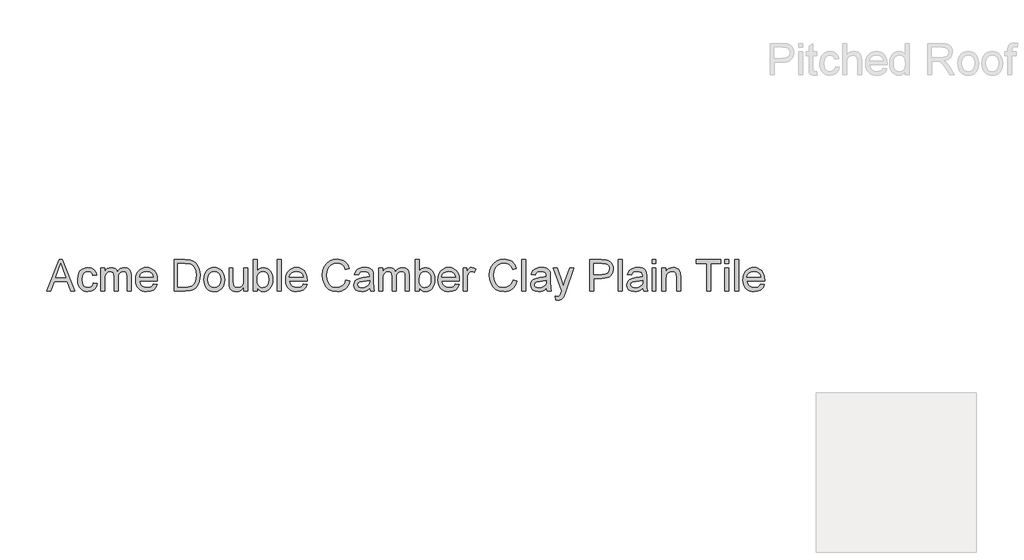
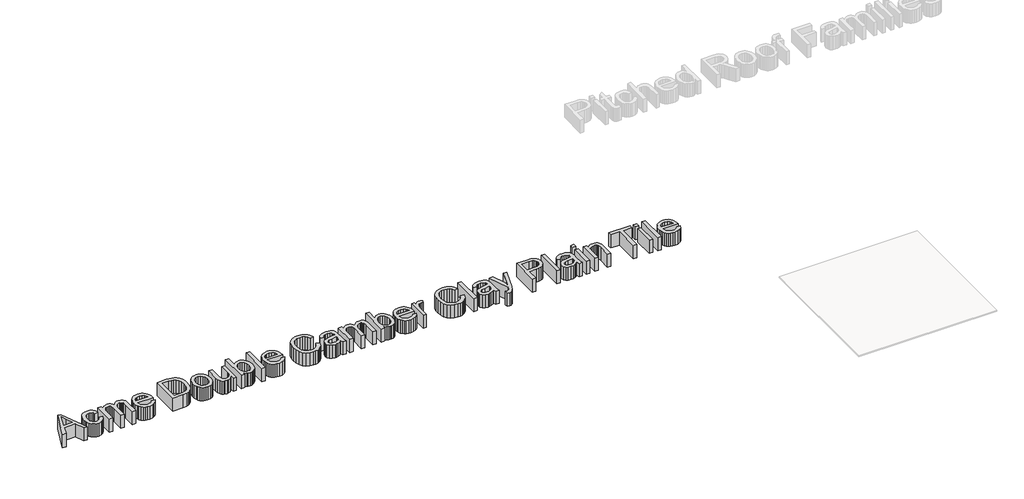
# One storey, part 3 of 4: 1 proxy.
"""IFC4 building model written with IfcOpenShell, lengths in millimetres."""

from ifc_helpers import new_model, si_unit, frame, origin, place, context, project, spatial, polyline, outline, extrude, element, save

model = new_model("IFC4")

# Units and contexts
model_context = context("Model", 3, world=origin())
ifc_project = project(units=[si_unit("LENGTHUNIT", "METRE", prefix="MILLI")], contexts=[model_context])

# Site, building, storey
site = spatial("IfcSite", under=ifc_project)
building = spatial("IfcBuilding", under=site)
storey = spatial("IfcBuildingStorey", under=building, Name="Marley Clay Plain Tile", Elevation=3000.0)

# Proxy
placement = place(None, origin())
element("IfcBuildingElementProxy", 1, Name="600mm Arial", ObjectType="600mm Arial", at=placement, inside=storey, context=model_context, shape_type="SweptSolid", body=[
    extrude(outline(polyline([(-17694.1326093, 5571.4862765), (-17576.2239555, 5866.8708919), (-17544.7816478, 5866.8708919), (-17426.8729939, 5571.4862765), (-17465.887417, 5571.4862765), (-17499.7095324, 5663.7939688), (-17621.3681863, 5663.7939688), (-17655.1181863, 5571.4862765), (-17694.1326093, 5571.4862765)]), holes=[polyline([(-17607.8104939, 5700.7170457), (-17513.1951093, 5700.7170457), (-17539.8056863, 5773.337238), (-17560.5028016, 5829.947815), (-17578.8922247, 5779.6833919), (-17607.8104939, 5700.7170457)])]), frame((0.0, 0.0, 3000.0), z_axis=(0.0, 0.0, 1.0), x_axis=(1.0, 0.0, 0.0)), (0.0, 0.0, 1.0), 150.0),
    extrude(outline(polyline([(-17253.5797247, 5649.947815), (-17216.6566478, 5645.3324304), (-17226.9511189, 5612.4928871), (-17246.2960709, 5587.6761804), (-17272.8705901, 5572.072214), (-17304.8537632, 5566.8708919), (-17325.5621466, 5568.6850445), (-17344.1296045, 5574.1275025), (-17360.556137, 5583.1982657), (-17374.8417439, 5595.8973342), (-17386.4049952, 5611.9858258), (-17394.6644603, 5631.2248582), (-17399.6201394, 5653.6144316), (-17401.2720324, 5679.1545457), (-17398.450518, 5712.0121179), (-17389.9859747, 5740.4886804), (-17375.7431863, 5763.4844736), (-17355.5869363, 5779.899738), (-17331.4733545, 5789.743488), (-17305.3585709, 5793.024738), (-17274.1596526, 5788.5175265), (-17249.2167439, 5774.9958919), (-17231.3231141, 5753.180988), (-17221.2720324, 5723.7939688), (-17258.1951093, 5719.1785842), (-17264.8928257, 5735.2873582), (-17275.3225132, 5746.8348342), (-17288.9072488, 5753.7849544), (-17305.0701093, 5756.1016611), (-17328.9312872, 5751.540363), (-17347.8705901, 5737.8564688), (-17360.2293641, 5714.3107957), (-17364.3489555, 5680.1641611), (-17360.3195084, 5645.5577909), (-17348.231167, 5621.930988), (-17329.6344122, 5608.3282236), (-17306.0797247, 5603.7939688), (-17286.9601334, 5606.6244977), (-17271.2840516, 5615.1160842), (-17259.8808064, 5629.4850746), (-17253.5797247, 5649.947815)])), frame((0.0, 0.0, 3000.0), z_axis=(0.0, 0.0, 1.0), x_axis=(1.0, 0.0, 0.0)), (0.0, 0.0, 1.0), 150.0),
    extrude(outline(polyline([(-17184.3489555, 5571.4862765), (-17184.3489555, 5788.4093534), (-17147.4258786, 5788.4093534), (-17147.4258786, 5752.712238), (-17136.3201093, 5769.1094736), (-17122.0412632, 5781.9550265), (-17105.0761189, 5790.2573102), (-17085.9114555, 5793.024738), (-17065.3765997, 5790.2032236), (-17048.9162632, 5781.7386804), (-17036.6205901, 5768.1900025), (-17028.5797247, 5750.1160842), (-17015.1211911, 5768.8886203), (-16999.7696286, 5782.2975746), (-16982.5250372, 5790.3429472), (-16963.387417, 5793.024738), (-16935.6320084, 5788.5625986), (-16915.106167, 5775.1761804), (-16902.4228738, 5752.5049063), (-16898.1951093, 5720.1881996), (-16898.1951093, 5571.4862765), (-16935.1181863, 5571.4862765), (-16935.1181863, 5704.322815), (-16938.543667, 5735.1521419), (-16943.3573689, 5743.6527429), (-16950.9475132, 5750.3324304), (-16960.7101334, 5754.6593534), (-16972.0412632, 5756.1016611), (-16992.044268, 5752.4057477), (-17008.3513593, 5741.3180073), (-17019.1957103, 5722.0812284), (-17022.8104939, 5693.9381996), (-17022.8104939, 5571.4862765), (-17059.7335709, 5571.4862765), (-17059.7335709, 5708.4333919), (-17061.8699891, 5729.3107957), (-17068.2792439, 5744.2026227), (-17079.5562872, 5753.1269015), (-17096.2960709, 5756.1016611), (-17110.5208305, 5754.118488), (-17123.6278016, 5748.1689688), (-17134.4451093, 5738.3973342), (-17141.8008786, 5724.947815), (-17146.0196286, 5706.2879592), (-17147.4258786, 5680.885315), (-17147.4258786, 5571.4862765), (-17184.3489555, 5571.4862765)])), frame((0.0, 0.0, 3000.0), z_axis=(0.0, 0.0, 1.0), x_axis=(1.0, 0.0, 0.0)), (0.0, 0.0, 1.0), 150.0),
    extrude(outline(polyline([(-16690.9354939, 5636.1016611), (-16654.7335709, 5631.4862765), (-16667.7774411, 5604.2086323), (-16688.5917439, 5583.8180073), (-16716.7077295, 5571.1076707), (-16751.6566478, 5566.8708919), (-16774.566804, 5568.6985662), (-16794.9799651, 5574.181589), (-16812.896131, 5583.3199604), (-16828.3153016, 5596.1136804), (-16840.7146406, 5612.2066792), (-16849.5713113, 5631.2428871), (-16854.8853137, 5653.2223042), (-16856.6566478, 5678.1449304), (-16854.8672848, 5703.9126587), (-16849.4991959, 5726.6244977), (-16840.552381, 5746.2804472), (-16828.0268401, 5762.8805073), (-16812.6482343, 5776.0686082), (-16795.1422247, 5785.4886804), (-16775.5088113, 5791.1407236), (-16753.7479939, 5793.024738), (-16732.688048, 5791.1452308), (-16713.6428257, 5785.5067092), (-16696.6123269, 5776.1091731), (-16681.5965516, 5762.9526227), (-16669.3391899, 5746.3886203), (-16660.5839314, 5726.7687284), (-16655.3307764, 5704.0929472), (-16653.5797247, 5678.3612765), (-16653.7960709, 5668.4093534), (-16819.7335709, 5668.4093534), (-16813.3423449, 5640.7711323), (-16798.4955901, 5620.4526227), (-16777.0683064, 5607.9586323), (-16750.9354939, 5603.7939688), (-16731.2840516, 5605.7230554), (-16714.7335709, 5611.510315), (-16701.2840516, 5621.5163246), (-16690.9354939, 5636.1016611)]), holes=[polyline([(-16819.7335709, 5705.3324304), (-16690.5028016, 5705.3324304), (-16695.496792, 5724.8396419), (-16705.2864555, 5738.7939688), (-16726.8128978, 5751.774738), (-16753.8922247, 5756.1016611), (-16778.7810468, 5752.6491371), (-16799.3609747, 5742.291565), (-16813.6668641, 5726.1467332), (-16819.7335709, 5705.3324304)])]), frame((0.0, 0.0, 3000.0), z_axis=(0.0, 0.0, 1.0), x_axis=(1.0, 0.0, 0.0)), (0.0, 0.0, 1.0), 150.0),
    extrude(outline(polyline([(-16496.6566478, 5571.4862765), (-16496.6566478, 5866.8708919), (-16394.7576093, 5866.8708919), (-16342.0412632, 5862.6160842), (-16318.4955901, 5854.4129592), (-16298.6278016, 5841.4862765), (-16278.2011189, 5818.9862765), (-16263.6518401, 5791.0055073), (-16254.9439074, 5758.0848342), (-16252.0412632, 5720.7651227), (-16254.0064074, 5689.0613967), (-16259.9018401, 5661.1617573), (-16268.8802055, 5637.4087525), (-16280.0941478, 5618.1449304), (-16293.0028016, 5602.9375986), (-16307.0653016, 5591.354065), (-16323.2101334, 5582.7633198), (-16342.3657824, 5576.5343534), (-16389.8537632, 5571.4862765), (-16496.6566478, 5571.4862765)]), holes=[polyline([(-16459.7335709, 5608.4093534), (-16394.3970324, 5608.4093534), (-16367.371792, 5609.743488), (-16346.8729939, 5613.7458919), (-16331.4042439, 5620.18219), (-16319.4691478, 5628.8180073), (-16306.6416238, 5644.8005794), (-16297.0052055, 5665.4886804), (-16290.9745564, 5690.9724544), (-16288.9643401, 5721.3420457), (-16292.903643, 5761.5824304), (-16304.7215516, 5791.2939688), (-16322.1824891, 5811.7026227), (-16343.0508786, 5824.0343534), (-16364.2888593, 5828.4694496), (-16395.4066478, 5829.947815), (-16459.7335709, 5829.947815), (-16459.7335709, 5608.4093534)])]), frame((0.0, 0.0, 3000.0), z_axis=(0.0, 0.0, 1.0), x_axis=(1.0, 0.0, 0.0)), (0.0, 0.0, 1.0), 150.0),
    extrude(outline(polyline([(-16215.1181863, 5679.947815), (-16213.1214915, 5708.0412645), (-16207.1314074, 5732.2494977), (-16197.1479339, 5752.5725145), (-16183.1710709, 5769.010315), (-16169.0995564, 5779.5166251), (-16153.5677055, 5787.0211323), (-16136.575518, 5791.5238366), (-16118.1229939, 5793.024738), (-16097.7526514, 5791.1970638), (-16079.3339314, 5785.7140409), (-16062.8668341, 5776.5756695), (-16048.3513593, 5763.7819496), (-16036.5041538, 5747.7655734), (-16028.0418641, 5728.9592332), (-16022.9644903, 5707.3629292), (-16021.2720324, 5682.9766611), (-16024.2648209, 5645.6749784), (-16033.2431863, 5617.2795457), (-16047.9457103, 5596.0145217), (-16068.1109747, 5580.104065), (-16092.0622968, 5570.1791852), (-16118.1229939, 5566.8708919), (-16138.7908125, 5568.6918054), (-16157.3808064, 5574.1545457), (-16173.8929759, 5583.259113), (-16188.3273209, 5596.0055073), (-16200.0483245, 5612.1773823), (-16208.4204699, 5631.5583919), (-16213.4437572, 5654.1485361), (-16215.1181863, 5679.947815)]), holes=[polyline([(-16178.1951093, 5680.0199304), (-16173.9222728, 5646.603464), (-16161.1037632, 5622.7963727), (-16141.8128978, 5608.5445698), (-16118.1229939, 5603.7939688), (-16094.5412632, 5608.571613), (-16075.2864555, 5622.9045457), (-16062.4679459, 5647.0271419), (-16058.1951093, 5681.1737765), (-16062.4949891, 5713.6166852), (-16075.3946286, 5737.0992573), (-16094.6764795, 5751.3510602), (-16118.1229939, 5756.1016611), (-16141.8128978, 5751.369089), (-16161.1037632, 5737.1713727), (-16173.9222728, 5713.4183679), (-16178.1951093, 5680.0199304)])]), frame((0.0, 0.0, 3000.0), z_axis=(0.0, 0.0, 1.0), x_axis=(1.0, 0.0, 0.0)), (0.0, 0.0, 1.0), 150.0),
    extrude(outline(polyline([(-15841.2720324, 5571.4862765), (-15841.2720324, 5608.7699304), (-15854.6314074, 5590.439101), (-15870.1903016, 5577.3456515), (-15887.9487151, 5569.4895818), (-15907.9066478, 5566.8708919), (-15925.8904218, 5568.7098342), (-15942.6302055, 5574.2266611), (-15956.6746766, 5582.5199304), (-15966.5725132, 5592.6881996), (-15977.5701093, 5619.8756996), (-15979.7335709, 5654.2026227), (-15979.7335709, 5788.4093534), (-15942.8104939, 5788.4093534), (-15942.8104939, 5671.5824304), (-15940.574917, 5633.9381996), (-15935.1933064, 5621.3811082), (-15925.9715516, 5611.8348342), (-15913.5226334, 5605.8041852), (-15898.4595324, 5603.7939688), (-15882.5310468, 5605.8492573), (-15867.6302055, 5612.0151227), (-15855.3435468, 5621.7236563), (-15847.2576093, 5634.4069496), (-15842.7684266, 5651.7777429), (-15841.2720324, 5675.5487765), (-15841.2720324, 5788.4093534), (-15804.3489555, 5788.4093534), (-15804.3489555, 5571.4862765), (-15841.2720324, 5571.4862765)])), frame((0.0, 0.0, 3000.0), z_axis=(0.0, 0.0, 1.0), x_axis=(1.0, 0.0, 0.0)), (0.0, 0.0, 1.0), 150.0),
    extrude(outline(polyline([(-15716.6566478, 5571.4862765), (-15753.5797247, 5571.4862765), (-15753.5797247, 5866.8708919), (-15716.6566478, 5866.8708919), (-15716.6566478, 5757.3276227), (-15704.5142199, 5772.9451106), (-15690.8032824, 5784.1004592), (-15675.5238353, 5790.7936683), (-15658.6758786, 5793.024738), (-15639.6554459, 5791.0145217), (-15621.6806863, 5784.9838727), (-15605.7792439, 5775.3113967), (-15592.9787632, 5762.3756996), (-15582.9457103, 5746.3029832), (-15575.3465516, 5727.2194496), (-15570.559893, 5705.9183679), (-15568.9643401, 5683.1930073), (-15570.6162331, 5656.9700505), (-15575.5719122, 5633.9021419), (-15583.8313774, 5613.9892813), (-15595.3946286, 5597.2314688), (-15609.2745865, 5583.9487164), (-15624.4841718, 5574.4610361), (-15641.0233846, 5568.768428), (-15658.8922247, 5566.8708919), (-15676.2945685, 5569.3183078), (-15691.7227536, 5576.6605554), (-15705.17678, 5588.8976347), (-15716.6566478, 5606.0295457), (-15716.6566478, 5571.4862765)]), holes=[polyline([(-15716.6566478, 5681.462238), (-15714.1326093, 5650.6689688), (-15706.5604939, 5629.8276227), (-15697.613679, 5618.4378991), (-15687.215542, 5610.3023823), (-15675.3660829, 5605.4210722), (-15662.0653016, 5603.7939688), (-15640.7552055, 5608.5896419), (-15622.5460709, 5622.9766611), (-15610.0520805, 5646.8648823), (-15605.887417, 5680.1641611), (-15609.8808064, 5713.9502188), (-15621.8609747, 5737.5680073), (-15639.5022007, 5751.4682477), (-15660.4787632, 5756.1016611), (-15681.7888593, 5751.305988), (-15699.9979939, 5736.9189688), (-15712.4919843, 5713.46344), (-15716.6566478, 5681.462238)])]), frame((0.0, 0.0, 3000.0), z_axis=(0.0, 0.0, 1.0), x_axis=(1.0, 0.0, 0.0)), (0.0, 0.0, 1.0), 150.0),
    extrude(outline(polyline([(-15527.4258786, 5571.4862765), (-15527.4258786, 5866.8708919), (-15490.5028016, 5866.8708919), (-15490.5028016, 5571.4862765), (-15527.4258786, 5571.4862765)])), frame((0.0, 0.0, 3000.0), z_axis=(0.0, 0.0, 1.0), x_axis=(1.0, 0.0, 0.0)), (0.0, 0.0, 1.0), 150.0),
    extrude(outline(polyline([(-15283.2431863, 5636.1016611), (-15247.0412632, 5631.4862765), (-15260.0851334, 5604.2086323), (-15280.8994363, 5583.8180073), (-15309.0154218, 5571.1076707), (-15343.9643401, 5566.8708919), (-15366.8744964, 5568.6985662), (-15387.2876574, 5574.181589), (-15405.2038233, 5583.3199604), (-15420.6229939, 5596.1136804), (-15433.0223329, 5612.2066792), (-15441.8790036, 5631.2428871), (-15447.193006, 5653.2223042), (-15448.9643401, 5678.1449304), (-15447.1749771, 5703.9126587), (-15441.8068882, 5726.6244977), (-15432.8600733, 5746.2804472), (-15420.3345324, 5762.8805073), (-15404.9559266, 5776.0686082), (-15387.449917, 5785.4886804), (-15367.8165036, 5791.1407236), (-15346.0556863, 5793.024738), (-15324.9957403, 5791.1452308), (-15305.950518, 5785.5067092), (-15288.9200192, 5776.1091731), (-15273.9042439, 5762.9526227), (-15261.6468822, 5746.3886203), (-15252.8916238, 5726.7687284), (-15247.6384687, 5704.0929472), (-15245.887417, 5678.3612765), (-15246.1037632, 5668.4093534), (-15412.0412632, 5668.4093534), (-15405.6500372, 5640.7711323), (-15390.8032824, 5620.4526227), (-15369.3759988, 5607.9586323), (-15343.2431863, 5603.7939688), (-15323.5917439, 5605.7230554), (-15307.0412632, 5611.510315), (-15293.5917439, 5621.5163246), (-15283.2431863, 5636.1016611)]), holes=[polyline([(-15412.0412632, 5705.3324304), (-15282.8104939, 5705.3324304), (-15287.8044843, 5724.8396419), (-15297.5941478, 5738.7939688), (-15319.1205901, 5751.774738), (-15346.199917, 5756.1016611), (-15371.0887391, 5752.6491371), (-15391.668667, 5742.291565), (-15405.9745564, 5726.1467332), (-15412.0412632, 5705.3324304)])]), frame((0.0, 0.0, 3000.0), z_axis=(0.0, 0.0, 1.0), x_axis=(1.0, 0.0, 0.0)), (0.0, 0.0, 1.0), 150.0),
    extrude(outline(polyline([(-14881.2720324, 5676.4862765), (-14844.3489555, 5666.9670457), (-14851.6551454, 5644.0050566), (-14861.3862151, 5623.9412044), (-14873.5421646, 5606.7754893), (-14888.1229939, 5592.5079111), (-14904.7996766, 5581.2917152), (-14923.2431863, 5573.2801467), (-14943.4535228, 5568.4732056), (-14965.4306863, 5566.8708919), (-15008.2582103, 5571.7206515), (-15042.2696286, 5586.2699304), (-15068.3393401, 5610.0139207), (-15087.3417439, 5642.447815), (-15098.9433064, 5680.5788246), (-15102.8104939, 5721.4141611), (-15098.4384988, 5764.4850746), (-15085.3225132, 5801.6785842), (-15064.1476334, 5831.8138005), (-15035.5989555, 5853.7098342), (-15001.7407824, 5867.0421659), (-14964.637417, 5871.4862765), (-14924.153643, 5865.7350746), (-14906.5417139, 5858.5460722), (-14890.6830901, 5848.4814688), (-14876.8391899, 5835.80719), (-14865.2714314, 5820.7891611), (-14848.9643401, 5783.7218534), (-14885.887417, 5774.9237765), (-14898.6878978, 5801.8498582), (-14916.1758786, 5820.3204111), (-14938.5677055, 5831.0025025), (-14966.0797247, 5834.5631996), (-14997.7924651, 5830.6148823), (-15023.8441478, 5818.7699304), (-15043.6127776, 5800.2723342), (-15056.4763593, 5776.3660842), (-15063.5346526, 5749.3408438), (-15065.887417, 5721.4862765), (-15063.1019603, 5687.3756996), (-15054.7455901, 5657.8805073), (-15040.5028016, 5634.1275025), (-15020.0580901, 5617.243488), (-14995.5478738, 5607.1563486), (-14969.1085709, 5603.7939688), (-14938.2882584, 5608.3732957), (-14912.606167, 5622.1112765), (-14893.216143, 5644.8636804), (-14881.2720324, 5676.4862765)])), frame((0.0, 0.0, 3000.0), z_axis=(0.0, 0.0, 1.0), x_axis=(1.0, 0.0, 0.0)), (0.0, 0.0, 1.0), 150.0),
    extrude(outline(polyline([(-14659.7335709, 5599.1785842), (-14677.3747968, 5584.0523823), (-14695.5388593, 5574.1545457), (-14714.6404218, 5568.6918054), (-14735.0941478, 5566.8708919), (-14765.950518, 5571.2519015), (-14788.7119363, 5584.3949304), (-14802.747393, 5604.352863), (-14807.4258786, 5629.1785842), (-14805.6590516, 5644.4850746), (-14800.3585709, 5658.385315), (-14792.1824891, 5670.2843534), (-14781.7888593, 5679.587238), (-14755.9354939, 5691.7026227), (-14723.9883786, 5697.2555073), (-14686.2359747, 5703.0968534), (-14659.949917, 5709.947815), (-14659.7335709, 5718.1689688), (-14662.2756382, 5734.6473342), (-14669.9018401, 5745.4285842), (-14686.9571286, 5753.4333919), (-14710.7191478, 5756.1016611), (-14732.7143401, 5754.3258198), (-14748.074917, 5748.9982957), (-14758.5496766, 5739.1455313), (-14765.887417, 5723.7939688), (-14802.8104939, 5728.4093534), (-14796.4012391, 5748.6016611), (-14786.8369363, 5764.4670457), (-14773.2251574, 5776.6004592), (-14754.6734747, 5785.5968534), (-14731.9841718, 5791.1677669), (-14705.9595324, 5793.024738), (-14680.9985949, 5791.384113), (-14661.2119363, 5786.462238), (-14646.2930661, 5779.0613967), (-14635.9354939, 5769.9838727), (-14629.0665036, 5758.7609159), (-14624.6133786, 5744.9237765), (-14622.8104939, 5712.6160842), (-14622.8104939, 5666.6785842), (-14620.9354939, 5602.5319496), (-14613.5797247, 5571.4862765), (-14650.5028016, 5571.4862765), (-14659.7335709, 5599.1785842)]), holes=[polyline([(-14659.7335709, 5673.024738), (-14719.3008786, 5661.7026227), (-14751.0677055, 5655.7170457), (-14765.4547247, 5645.9814688), (-14770.5028016, 5631.774738), (-14767.7534026, 5620.7951707), (-14759.5052055, 5611.7987765), (-14745.9384988, 5605.7951707), (-14727.2335709, 5603.7939688), (-14707.4018401, 5606.0025025), (-14689.8778016, 5612.6281034), (-14675.6710709, 5622.3907236), (-14665.7912632, 5634.010315), (-14661.4102536, 5645.9814688), (-14659.949917, 5662.5680073), (-14659.7335709, 5673.024738)])]), frame((0.0, 0.0, 3000.0), z_axis=(0.0, 0.0, 1.0), x_axis=(1.0, 0.0, 0.0)), (0.0, 0.0, 1.0), 150.0),
    extrude(outline(polyline([(-14572.0412632, 5571.4862765), (-14572.0412632, 5788.4093534), (-14535.1181863, 5788.4093534), (-14535.1181863, 5752.712238), (-14524.012417, 5769.1094736), (-14509.7335709, 5781.9550265), (-14492.7684266, 5790.2573102), (-14473.6037632, 5793.024738), (-14453.0689074, 5790.2032236), (-14436.6085709, 5781.7386804), (-14424.3128978, 5768.1900025), (-14416.2720324, 5750.1160842), (-14402.8134988, 5768.8886203), (-14387.4619363, 5782.2975746), (-14370.2173449, 5790.3429472), (-14351.0797247, 5793.024738), (-14323.3243161, 5788.5625986), (-14302.7984747, 5775.1761804), (-14290.1151814, 5752.5049063), (-14285.887417, 5720.1881996), (-14285.887417, 5571.4862765), (-14322.8104939, 5571.4862765), (-14322.8104939, 5704.322815), (-14326.2359747, 5735.1521419), (-14331.0496766, 5743.6527429), (-14338.6398209, 5750.3324304), (-14348.4024411, 5754.6593534), (-14359.7335709, 5756.1016611), (-14379.7365757, 5752.4057477), (-14396.043667, 5741.3180073), (-14406.888018, 5722.0812284), (-14410.5028016, 5693.9381996), (-14410.5028016, 5571.4862765), (-14447.4258786, 5571.4862765), (-14447.4258786, 5708.4333919), (-14449.5622968, 5729.3107957), (-14455.9715516, 5744.2026227), (-14467.2485949, 5753.1269015), (-14483.9883786, 5756.1016611), (-14498.2131382, 5754.118488), (-14511.3201093, 5748.1689688), (-14522.137417, 5738.3973342), (-14529.4931863, 5724.947815), (-14533.7119363, 5706.2879592), (-14535.1181863, 5680.885315), (-14535.1181863, 5571.4862765), (-14572.0412632, 5571.4862765)])), frame((0.0, 0.0, 3000.0), z_axis=(0.0, 0.0, 1.0), x_axis=(1.0, 0.0, 0.0)), (0.0, 0.0, 1.0), 150.0),
    extrude(outline(polyline([(-14193.5797247, 5571.4862765), (-14230.5028016, 5571.4862765), (-14230.5028016, 5866.8708919), (-14193.5797247, 5866.8708919), (-14193.5797247, 5757.3276227), (-14181.4372968, 5772.9451106), (-14167.7263593, 5784.1004592), (-14152.4469122, 5790.7936683), (-14135.5989555, 5793.024738), (-14116.5785228, 5791.0145217), (-14098.6037632, 5784.9838727), (-14082.7023209, 5775.3113967), (-14069.9018401, 5762.3756996), (-14059.8687872, 5746.3029832), (-14052.2696286, 5727.2194496), (-14047.4829699, 5705.9183679), (-14045.887417, 5683.1930073), (-14047.5393101, 5656.9700505), (-14052.4949891, 5633.9021419), (-14060.7544543, 5613.9892813), (-14072.3177055, 5597.2314688), (-14086.1976634, 5583.9487164), (-14101.4072488, 5574.4610361), (-14117.9464615, 5568.768428), (-14135.8153016, 5566.8708919), (-14153.2176454, 5569.3183078), (-14168.6458305, 5576.6605554), (-14182.0998569, 5588.8976347), (-14193.5797247, 5606.0295457), (-14193.5797247, 5571.4862765)]), holes=[polyline([(-14193.5797247, 5681.462238), (-14191.0556863, 5650.6689688), (-14183.4835709, 5629.8276227), (-14174.536756, 5618.4378991), (-14164.1386189, 5610.3023823), (-14152.2891598, 5605.4210722), (-14138.9883786, 5603.7939688), (-14117.6782824, 5608.5896419), (-14099.4691478, 5622.9766611), (-14086.9751574, 5646.8648823), (-14082.8104939, 5680.1641611), (-14086.8038834, 5713.9502188), (-14098.7840516, 5737.5680073), (-14116.4252776, 5751.4682477), (-14137.4018401, 5756.1016611), (-14158.7119363, 5751.305988), (-14176.9210709, 5736.9189688), (-14189.4150613, 5713.46344), (-14193.5797247, 5681.462238)])]), frame((0.0, 0.0, 3000.0), z_axis=(0.0, 0.0, 1.0), x_axis=(1.0, 0.0, 0.0)), (0.0, 0.0, 1.0), 150.0),
    extrude(outline(polyline([(-13852.4739555, 5636.1016611), (-13816.2720324, 5631.4862765), (-13829.3159026, 5604.2086323), (-13850.1302055, 5583.8180073), (-13878.2461911, 5571.1076707), (-13913.1951093, 5566.8708919), (-13936.1052656, 5568.6985662), (-13956.5184266, 5574.181589), (-13974.4345925, 5583.3199604), (-13989.8537632, 5596.1136804), (-14002.2531021, 5612.2066792), (-14011.1097728, 5631.2428871), (-14016.4237752, 5653.2223042), (-14018.1951093, 5678.1449304), (-14016.4057464, 5703.9126587), (-14011.0376574, 5726.6244977), (-14002.0908425, 5746.2804472), (-13989.5653016, 5762.8805073), (-13974.1866959, 5776.0686082), (-13956.6806863, 5785.4886804), (-13937.0472728, 5791.1407236), (-13915.2864555, 5793.024738), (-13894.2265096, 5791.1452308), (-13875.1812872, 5785.5067092), (-13858.1507884, 5776.1091731), (-13843.1350132, 5762.9526227), (-13830.8776514, 5746.3886203), (-13822.122393, 5726.7687284), (-13816.8692379, 5704.0929472), (-13815.1181863, 5678.3612765), (-13815.3345324, 5668.4093534), (-13981.2720324, 5668.4093534), (-13974.8808064, 5640.7711323), (-13960.0340516, 5620.4526227), (-13938.606768, 5607.9586323), (-13912.4739555, 5603.7939688), (-13892.8225132, 5605.7230554), (-13876.2720324, 5611.510315), (-13862.8225132, 5621.5163246), (-13852.4739555, 5636.1016611)]), holes=[polyline([(-13981.2720324, 5705.3324304), (-13852.0412632, 5705.3324304), (-13857.0352536, 5724.8396419), (-13866.824917, 5738.7939688), (-13888.3513593, 5751.774738), (-13915.4306863, 5756.1016611), (-13940.3195084, 5752.6491371), (-13960.8994363, 5742.291565), (-13975.2053257, 5726.1467332), (-13981.2720324, 5705.3324304)])]), frame((0.0, 0.0, 3000.0), z_axis=(0.0, 0.0, 1.0), x_axis=(1.0, 0.0, 0.0)), (0.0, 0.0, 1.0), 150.0),
    extrude(outline(polyline([(-13778.1951093, 5571.4862765), (-13778.1951093, 5788.4093534), (-13745.887417, 5788.4093534), (-13745.887417, 5756.3180073), (-13733.9523209, 5774.9237765), (-13722.9547247, 5785.885315), (-13711.9210709, 5791.2398823), (-13699.8778016, 5793.024738), (-13681.4883786, 5790.1761804), (-13662.8104939, 5781.6305073), (-13675.1422247, 5748.5295457), (-13688.1229939, 5754.2086323), (-13701.1037632, 5756.1016611), (-13712.1284026, 5754.2807477), (-13721.981167, 5748.8180073), (-13729.9409026, 5740.1281034), (-13735.2864555, 5728.6256996), (-13739.7756382, 5708.0006996), (-13741.2720324, 5685.5006996), (-13741.2720324, 5571.4862765), (-13778.1951093, 5571.4862765)])), frame((0.0, 0.0, 3000.0), z_axis=(0.0, 0.0, 1.0), x_axis=(1.0, 0.0, 0.0)), (0.0, 0.0, 1.0), 150.0),
    extrude(outline(polyline([(-13312.0412632, 5676.4862765), (-13275.1181863, 5666.9670457), (-13282.4243762, 5644.0050566), (-13292.1554459, 5623.9412044), (-13304.3113954, 5606.7754893), (-13318.8922247, 5592.5079111), (-13335.5689074, 5581.2917152), (-13354.012417, 5573.2801467), (-13374.2227536, 5568.4732056), (-13396.199917, 5566.8708919), (-13439.0274411, 5571.7206515), (-13473.0388593, 5586.2699304), (-13499.1085709, 5610.0139207), (-13518.1109747, 5642.447815), (-13529.7125372, 5680.5788246), (-13533.5797247, 5721.4141611), (-13529.2077295, 5764.4850746), (-13516.0917439, 5801.6785842), (-13494.9168641, 5831.8138005), (-13466.3681863, 5853.7098342), (-13432.5100132, 5867.0421659), (-13395.4066478, 5871.4862765), (-13354.9228738, 5865.7350746), (-13337.3109447, 5858.5460722), (-13321.4523209, 5848.4814688), (-13307.6084206, 5835.80719), (-13296.0406622, 5820.7891611), (-13279.7335709, 5783.7218534), (-13316.6566478, 5774.9237765), (-13329.4571286, 5801.8498582), (-13346.9451093, 5820.3204111), (-13369.3369363, 5831.0025025), (-13396.8489555, 5834.5631996), (-13428.5616959, 5830.6148823), (-13454.6133786, 5818.7699304), (-13474.3820084, 5800.2723342), (-13487.2455901, 5776.3660842), (-13494.3038834, 5749.3408438), (-13496.6566478, 5721.4862765), (-13493.8711911, 5687.3756996), (-13485.5148209, 5657.8805073), (-13471.2720324, 5634.1275025), (-13450.8273209, 5617.243488), (-13426.3171045, 5607.1563486), (-13399.8778016, 5603.7939688), (-13369.0574891, 5608.3732957), (-13343.3753978, 5622.1112765), (-13323.9853738, 5644.8636804), (-13312.0412632, 5676.4862765)])), frame((0.0, 0.0, 3000.0), z_axis=(0.0, 0.0, 1.0), x_axis=(1.0, 0.0, 0.0)), (0.0, 0.0, 1.0), 150.0),
    extrude(outline(polyline([(-13228.9643401, 5571.4862765), (-13228.9643401, 5866.8708919), (-13192.0412632, 5866.8708919), (-13192.0412632, 5571.4862765), (-13228.9643401, 5571.4862765)])), frame((0.0, 0.0, 3000.0), z_axis=(0.0, 0.0, 1.0), x_axis=(1.0, 0.0, 0.0)), (0.0, 0.0, 1.0), 150.0),
    extrude(outline(polyline([(-12998.1951093, 5599.1785842), (-13015.8363353, 5584.0523823), (-13034.0003978, 5574.1545457), (-13053.1019603, 5568.6918054), (-13073.5556863, 5566.8708919), (-13104.4120564, 5571.2519015), (-13127.1734747, 5584.3949304), (-13141.2089314, 5604.352863), (-13145.887417, 5629.1785842), (-13144.1205901, 5644.4850746), (-13138.8201093, 5658.385315), (-13130.6440276, 5670.2843534), (-13120.2503978, 5679.587238), (-13094.3970324, 5691.7026227), (-13062.449917, 5697.2555073), (-13024.6975132, 5703.0968534), (-12998.4114555, 5709.947815), (-12998.1951093, 5718.1689688), (-13000.7371766, 5734.6473342), (-13008.3633786, 5745.4285842), (-13025.418667, 5753.4333919), (-13049.1806863, 5756.1016611), (-13071.1758786, 5754.3258198), (-13086.5364555, 5748.9982957), (-13097.0112151, 5739.1455313), (-13104.3489555, 5723.7939688), (-13141.2720324, 5728.4093534), (-13134.8627776, 5748.6016611), (-13125.2984747, 5764.4670457), (-13111.6866959, 5776.6004592), (-13093.1350132, 5785.5968534), (-13070.4457103, 5791.1677669), (-13044.4210709, 5793.024738), (-13019.4601334, 5791.384113), (-12999.6734747, 5786.462238), (-12984.7546045, 5779.0613967), (-12974.3970324, 5769.9838727), (-12967.528042, 5758.7609159), (-12963.074917, 5744.9237765), (-12961.2720324, 5712.6160842), (-12961.2720324, 5666.6785842), (-12959.3970324, 5602.5319496), (-12952.0412632, 5571.4862765), (-12988.9643401, 5571.4862765), (-12998.1951093, 5599.1785842)]), holes=[polyline([(-12998.1951093, 5673.024738), (-13057.762417, 5661.7026227), (-13089.5292439, 5655.7170457), (-13103.9162632, 5645.9814688), (-13108.9643401, 5631.774738), (-13106.2149411, 5620.7951707), (-13097.9667439, 5611.7987765), (-13084.4000372, 5605.7951707), (-13065.6951093, 5603.7939688), (-13045.8633786, 5606.0025025), (-13028.3393401, 5612.6281034), (-13014.1326093, 5622.3907236), (-13004.2528016, 5634.010315), (-12999.871792, 5645.9814688), (-12998.4114555, 5662.5680073), (-12998.1951093, 5673.024738)])]), frame((0.0, 0.0, 3000.0), z_axis=(0.0, 0.0, 1.0), x_axis=(1.0, 0.0, 0.0)), (0.0, 0.0, 1.0), 150.0),
    extrude(outline(polyline([(-12910.5028016, 5488.4093534), (-12915.1181863, 5523.962238), (-12896.3681863, 5520.7170457), (-12878.8441478, 5524.791565), (-12868.0989555, 5536.149738), (-12858.0028016, 5563.337238), (-12855.1181863, 5572.2795457), (-12933.5797247, 5788.4093534), (-12894.637417, 5788.4093534), (-12853.0268401, 5667.9766611), (-12838.5316478, 5619.8035842), (-12824.0364555, 5662.3516611), (-12781.2720324, 5788.4093534), (-12742.6181863, 5788.4093534), (-12818.1229939, 5566.2939688), (-12837.7383786, 5518.1208919), (-12847.7804459, 5502.7422861), (-12859.1566478, 5492.087238), (-12872.371792, 5485.8672861), (-12887.9306863, 5483.7939688), (-12910.5028016, 5488.4093534)])), frame((0.0, 0.0, 3000.0), z_axis=(0.0, 0.0, 1.0), x_axis=(1.0, 0.0, 0.0)), (0.0, 0.0, 1.0), 150.0),
    extrude(outline(polyline([(-12592.0412632, 5571.4862765), (-12592.0412632, 5866.8708919), (-12482.5701093, 5866.8708919), (-12438.4354939, 5864.0583919), (-12418.7570084, 5858.8029832), (-12402.5580901, 5850.2482957), (-12389.5142199, 5838.0067092), (-12379.3008786, 5821.6906034), (-12372.7023209, 5802.4448102), (-12370.5028016, 5781.4141611), (-12376.4433064, 5746.6004592), (-12383.8689375, 5731.3705914), (-12394.2648209, 5717.5920457), (-12408.5369062, 5706.1707717), (-12427.591143, 5698.0127188), (-12451.4275312, 5693.1178871), (-12480.0460709, 5691.4862765), (-12555.1181863, 5691.4862765), (-12555.1181863, 5571.4862765), (-12592.0412632, 5571.4862765)]), holes=[polyline([(-12555.1181863, 5728.4093534), (-12477.8826093, 5728.4093534), (-12445.1422247, 5731.7987765), (-12423.5076093, 5741.9670457), (-12411.4463113, 5758.2831515), (-12407.4258786, 5780.1160842), (-12409.7966718, 5796.7026227), (-12416.9090516, 5810.6930073), (-12427.8796045, 5821.2218534), (-12441.824917, 5827.4237765), (-12478.7479939, 5829.947815), (-12555.1181863, 5829.947815), (-12555.1181863, 5728.4093534)])]), frame((0.0, 0.0, 3000.0), z_axis=(0.0, 0.0, 1.0), x_axis=(1.0, 0.0, 0.0)), (0.0, 0.0, 1.0), 150.0),
    extrude(outline(polyline([(-12324.3489555, 5571.4862765), (-12324.3489555, 5866.8708919), (-12287.4258786, 5866.8708919), (-12287.4258786, 5571.4862765), (-12324.3489555, 5571.4862765)])), frame((0.0, 0.0, 3000.0), z_axis=(0.0, 0.0, 1.0), x_axis=(1.0, 0.0, 0.0)), (0.0, 0.0, 1.0), 150.0),
    extrude(outline(polyline([(-12093.5797247, 5599.1785842), (-12111.2209507, 5584.0523823), (-12129.3850132, 5574.1545457), (-12148.4865757, 5568.6918054), (-12168.9403016, 5566.8708919), (-12199.7966718, 5571.2519015), (-12222.5580901, 5584.3949304), (-12236.5935468, 5604.352863), (-12241.2720324, 5629.1785842), (-12239.5052055, 5644.4850746), (-12234.2047247, 5658.385315), (-12226.028643, 5670.2843534), (-12215.6350132, 5679.587238), (-12189.7816478, 5691.7026227), (-12157.8345324, 5697.2555073), (-12120.0821286, 5703.0968534), (-12093.7960709, 5709.947815), (-12093.5797247, 5718.1689688), (-12096.121792, 5734.6473342), (-12103.7479939, 5745.4285842), (-12120.8032824, 5753.4333919), (-12144.5653016, 5756.1016611), (-12166.5604939, 5754.3258198), (-12181.9210709, 5748.9982957), (-12192.3958305, 5739.1455313), (-12199.7335709, 5723.7939688), (-12236.6566478, 5728.4093534), (-12230.247393, 5748.6016611), (-12220.6830901, 5764.4670457), (-12207.0713113, 5776.6004592), (-12188.5196286, 5785.5968534), (-12165.8303257, 5791.1677669), (-12139.8056863, 5793.024738), (-12114.8447488, 5791.384113), (-12095.0580901, 5786.462238), (-12080.1392199, 5779.0613967), (-12069.7816478, 5769.9838727), (-12062.9126574, 5758.7609159), (-12058.4595324, 5744.9237765), (-12056.6566478, 5712.6160842), (-12056.6566478, 5666.6785842), (-12054.7816478, 5602.5319496), (-12047.4258786, 5571.4862765), (-12084.3489555, 5571.4862765), (-12093.5797247, 5599.1785842)]), holes=[polyline([(-12093.5797247, 5673.024738), (-12153.1470324, 5661.7026227), (-12184.9138593, 5655.7170457), (-12199.3008786, 5645.9814688), (-12204.3489555, 5631.774738), (-12201.5995564, 5620.7951707), (-12193.3513593, 5611.7987765), (-12179.7846526, 5605.7951707), (-12161.0797247, 5603.7939688), (-12141.2479939, 5606.0025025), (-12123.7239555, 5612.6281034), (-12109.5172247, 5622.3907236), (-12099.637417, 5634.010315), (-12095.2564074, 5645.9814688), (-12093.7960709, 5662.5680073), (-12093.5797247, 5673.024738)])]), frame((0.0, 0.0, 3000.0), z_axis=(0.0, 0.0, 1.0), x_axis=(1.0, 0.0, 0.0)), (0.0, 0.0, 1.0), 150.0),
    extrude(outline(polyline([(-12005.887417, 5571.4862765), (-12005.887417, 5788.4093534), (-11968.9643401, 5788.4093534), (-11968.9643401, 5571.4862765), (-12005.887417, 5571.4862765)])), frame((0.0, 0.0, 3000.0), z_axis=(0.0, 0.0, 1.0), x_axis=(1.0, 0.0, 0.0)), (0.0, 0.0, 1.0), 150.0),
    extrude(outline(polyline([(-12005.887417, 5829.947815), (-12005.887417, 5866.8708919), (-11968.9643401, 5866.8708919), (-11968.9643401, 5829.947815), (-12005.887417, 5829.947815)])), frame((0.0, 0.0, 3000.0), z_axis=(0.0, 0.0, 1.0), x_axis=(1.0, 0.0, 0.0)), (0.0, 0.0, 1.0), 150.0),
    extrude(outline(polyline([(-11913.5797247, 5571.4862765), (-11913.5797247, 5788.4093534), (-11876.6566478, 5788.4093534), (-11876.6566478, 5758.1208919), (-11863.8291238, 5773.3913246), (-11848.4234747, 5784.2987765), (-11830.4397007, 5790.8432477), (-11809.8778016, 5793.024738), (-11791.6776814, 5791.2669255), (-11775.0100132, 5785.993488), (-11761.1097728, 5777.8624784), (-11751.2119363, 5767.5319496), (-11740.1422247, 5740.3805073), (-11738.1951093, 5704.6833919), (-11738.1951093, 5571.4862765), (-11775.1181863, 5571.4862765), (-11775.1181863, 5699.7074304), (-11779.3729939, 5732.3756996), (-11785.2594122, 5742.1022621), (-11794.4090516, 5749.6473342), (-11806.1368161, 5754.4880794), (-11819.7576093, 5756.1016611), (-11841.3832103, 5752.477863), (-11859.8177055, 5741.6064688), (-11867.1847427, 5732.7317693), (-11872.4469122, 5720.602863), (-11876.6566478, 5686.5824304), (-11876.6566478, 5571.4862765), (-11913.5797247, 5571.4862765)])), frame((0.0, 0.0, 3000.0), z_axis=(0.0, 0.0, 1.0), x_axis=(1.0, 0.0, 0.0)), (0.0, 0.0, 1.0), 150.0),
    extrude(outline(polyline([(-11493.5797247, 5571.4862765), (-11493.5797247, 5829.947815), (-11590.5028016, 5829.947815), (-11590.5028016, 5866.8708919), (-11359.7335709, 5866.8708919), (-11359.7335709, 5829.947815), (-11456.6566478, 5829.947815), (-11456.6566478, 5571.4862765), (-11493.5797247, 5571.4862765)])), frame((0.0, 0.0, 3000.0), z_axis=(0.0, 0.0, 1.0), x_axis=(1.0, 0.0, 0.0)), (0.0, 0.0, 1.0), 150.0),
    extrude(outline(polyline([(-11322.8104939, 5829.947815), (-11322.8104939, 5866.8708919), (-11285.887417, 5866.8708919), (-11285.887417, 5829.947815), (-11322.8104939, 5829.947815)])), frame((0.0, 0.0, 3000.0), z_axis=(0.0, 0.0, 1.0), x_axis=(1.0, 0.0, 0.0)), (0.0, 0.0, 1.0), 150.0),
    extrude(outline(polyline([(-11322.8104939, 5571.4862765), (-11322.8104939, 5788.4093534), (-11285.887417, 5788.4093534), (-11285.887417, 5571.4862765), (-11322.8104939, 5571.4862765)])), frame((0.0, 0.0, 3000.0), z_axis=(0.0, 0.0, 1.0), x_axis=(1.0, 0.0, 0.0)), (0.0, 0.0, 1.0), 150.0),
    extrude(outline(polyline([(-11230.5028016, 5571.4862765), (-11230.5028016, 5866.8708919), (-11193.5797247, 5866.8708919), (-11193.5797247, 5571.4862765), (-11230.5028016, 5571.4862765)])), frame((0.0, 0.0, 3000.0), z_axis=(0.0, 0.0, 1.0), x_axis=(1.0, 0.0, 0.0)), (0.0, 0.0, 1.0), 150.0),
    extrude(outline(polyline([(-10986.3201093, 5636.1016611), (-10950.1181863, 5631.4862765), (-10963.1620564, 5604.2086323), (-10983.9763593, 5583.8180073), (-11012.0923449, 5571.1076707), (-11047.0412632, 5566.8708919), (-11069.9514194, 5568.6985662), (-11090.3645805, 5574.181589), (-11108.2807464, 5583.3199604), (-11123.699917, 5596.1136804), (-11136.099256, 5612.2066792), (-11144.9559266, 5631.2428871), (-11150.269929, 5653.2223042), (-11152.0412632, 5678.1449304), (-11150.2519002, 5703.9126587), (-11144.8838113, 5726.6244977), (-11135.9369964, 5746.2804472), (-11123.4114555, 5762.8805073), (-11108.0328497, 5776.0686082), (-11090.5268401, 5785.4886804), (-11070.8934266, 5791.1407236), (-11049.1326093, 5793.024738), (-11028.0726634, 5791.1452308), (-11009.0274411, 5785.5067092), (-10991.9969423, 5776.1091731), (-10976.981167, 5762.9526227), (-10964.7238052, 5746.3886203), (-10955.9685468, 5726.7687284), (-10950.7153918, 5704.0929472), (-10948.9643401, 5678.3612765), (-10949.1806863, 5668.4093534), (-11115.1181863, 5668.4093534), (-11108.7269603, 5640.7711323), (-11093.8802055, 5620.4526227), (-11072.4529218, 5607.9586323), (-11046.3201093, 5603.7939688), (-11026.668667, 5605.7230554), (-11010.1181863, 5611.510315), (-10996.668667, 5621.5163246), (-10986.3201093, 5636.1016611)]), holes=[polyline([(-11115.1181863, 5705.3324304), (-10985.887417, 5705.3324304), (-10990.8814074, 5724.8396419), (-11000.6710709, 5738.7939688), (-11022.1975132, 5751.774738), (-11049.2768401, 5756.1016611), (-11074.1656622, 5752.6491371), (-11094.7455901, 5742.291565), (-11109.0514795, 5726.1467332), (-11115.1181863, 5705.3324304)])]), frame((0.0, 0.0, 3000.0), z_axis=(0.0, 0.0, 1.0), x_axis=(1.0, 0.0, 0.0)), (0.0, 0.0, 1.0), 150.0),
])

save(model, "model.ifc")
